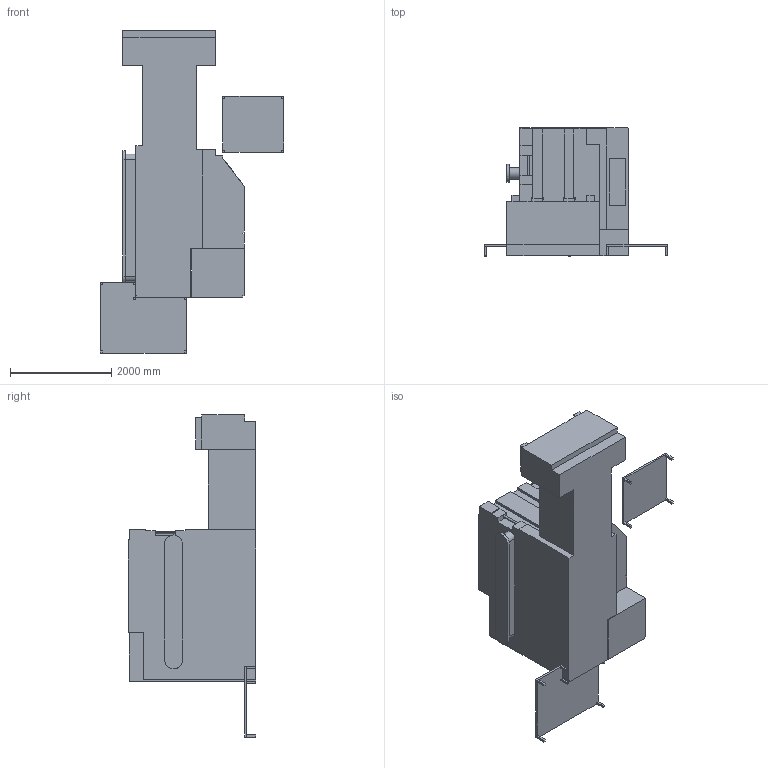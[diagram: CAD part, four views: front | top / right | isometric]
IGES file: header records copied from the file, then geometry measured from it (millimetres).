
Start section: START RECORD GO HERE.
Global section: file name: bati-sans-pupitre.igs; native system: IBM CATIA IGES - CATIA Version 5 Release 11 ; preprocessor: CATIA Version 5 Release 11 ; author: mta; organization: MONTREUIL; date: 20031031.104540; units: millimetre
Bounding box: 3618.5 x 2526 x 6367.5 mm (x, y, z)
Surface area: 68653231.7 mm2 (no closed solid volume)
Topology: 0 solids, 0 shells, 188 faces, 1042 edges, 1042 vertices
Faces by surface type: plane 166, revolution 22
